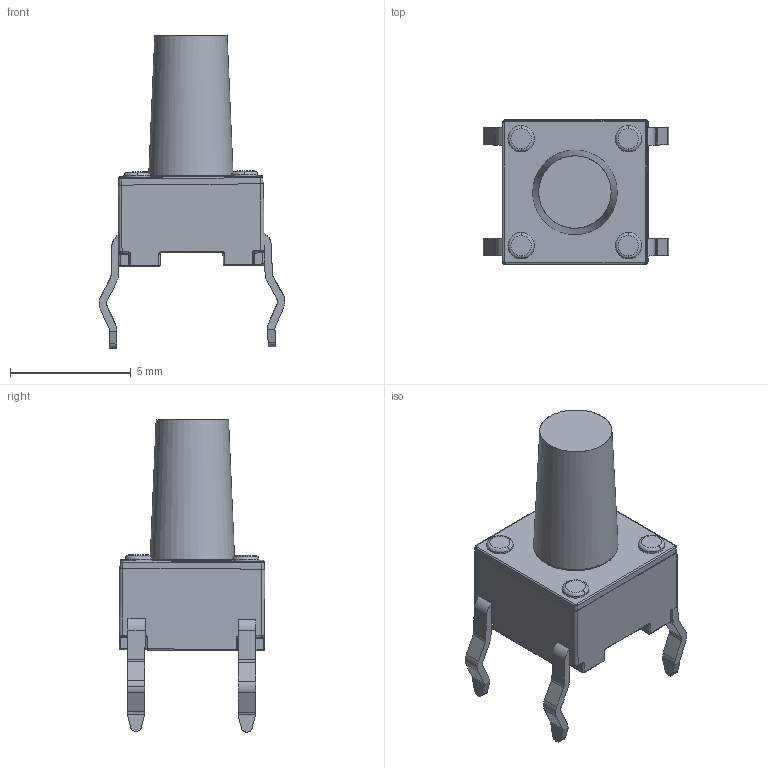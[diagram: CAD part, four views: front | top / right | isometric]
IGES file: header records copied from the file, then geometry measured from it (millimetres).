
Global section: file name: Filename.iges; native system: Open CASCADE 7.3; preprocessor: Open CASCADE IGES processor 7.3; date: 20210813.144815; units: millimetre
Bounding box: 7.69 x 6.03 x 12.94 mm (x, y, z)
Surface area: 277 mm2 (no closed solid volume)
Topology: 0 solids, 0 shells, 294 faces, 1410 edges, 1382 vertices
Faces by surface type: revolution 204, plane 90
